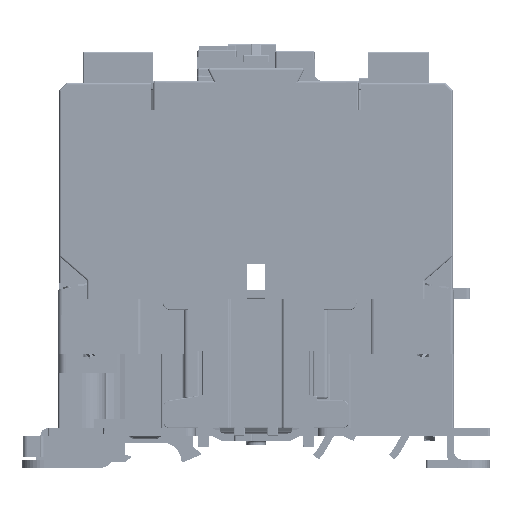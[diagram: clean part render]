
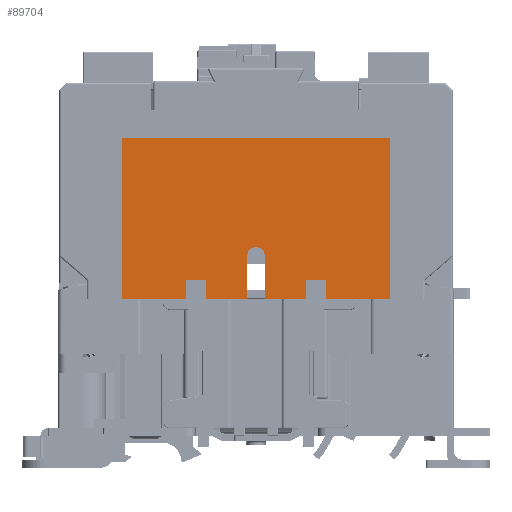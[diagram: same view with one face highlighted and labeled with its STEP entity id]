
A CAD part, front view. The second image highlights one B-rep face of the part: STEP entity #89704.
In plain terms, the highlighted planar face has unit normal (0, -1, 0) as drawn and (-1, 0, 0) by its records, which use the part's own axes.
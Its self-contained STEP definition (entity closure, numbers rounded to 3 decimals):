
#70739=DIRECTION('',(0.,1.,0.));
#70740=VECTOR('',#70739,17.25);
#70741=CARTESIAN_POINT('',(-40.75,19.,0.));
#70742=LINE('',#70741,#70740);
#70755=DIRECTION('',(0.,1.,0.));
#70756=VECTOR('',#70755,11.1);
#70757=CARTESIAN_POINT('',(-40.75,2.4,0.));
#70758=LINE('',#70757,#70756);
#70951=DIRECTION('',(0.,1.,0.));
#70952=VECTOR('',#70951,11.1);
#70953=CARTESIAN_POINT('',(-40.75,-13.5,0.));
#70954=LINE('',#70953,#70952);
#70967=DIRECTION('',(0.,1.,0.));
#70968=VECTOR('',#70967,17.25);
#70969=CARTESIAN_POINT('',(-40.75,-36.25,0.));
#70970=LINE('',#70969,#70968);
#74734=DIRECTION('',(0.,0.,1.));
#74735=VECTOR('',#74734,11.6);
#74736=CARTESIAN_POINT('',(-40.75,2.4,0.));
#74737=LINE('',#74736,#74735);
#74742=DIRECTION('',(0.,0.,1.));
#74743=VECTOR('',#74742,5.);
#74744=CARTESIAN_POINT('',(-40.75,-13.5,0.));
#74745=LINE('',#74744,#74743);
#74746=DIRECTION('',(0.,0.,1.));
#74747=VECTOR('',#74746,5.);
#74748=CARTESIAN_POINT('',(-40.75,13.5,0.));
#74749=LINE('',#74748,#74747);
#74750=DIRECTION('',(0.,-1.,0.));
#74751=VECTOR('',#74750,5.5);
#74752=CARTESIAN_POINT('',(-40.75,19.,5.));
#74753=LINE('',#74752,#74751);
#74754=DIRECTION('',(0.,0.,1.));
#74755=VECTOR('',#74754,5.);
#74756=CARTESIAN_POINT('',(-40.75,19.,0.));
#74757=LINE('',#74756,#74755);
#74758=DIRECTION('',(0.,0.,1.));
#74759=VECTOR('',#74758,43.5);
#74760=CARTESIAN_POINT('',(-40.75,36.25,0.));
#74761=LINE('',#74760,#74759);
#74762=DIRECTION('',(0.,-1.,0.));
#74763=VECTOR('',#74762,72.5);
#74764=CARTESIAN_POINT('',(-40.75,36.25,43.5));
#74765=LINE('',#74764,#74763);
#74766=DIRECTION('',(0.,0.,-1.));
#74767=VECTOR('',#74766,43.5);
#74768=CARTESIAN_POINT('',(-40.75,-36.25,43.5));
#74769=LINE('',#74768,#74767);
#74770=DIRECTION('',(0.,0.,1.));
#74771=VECTOR('',#74770,5.);
#74772=CARTESIAN_POINT('',(-40.75,-19.,0.));
#74773=LINE('',#74772,#74771);
#74774=DIRECTION('',(0.,-1.,0.));
#74775=VECTOR('',#74774,5.5);
#74776=CARTESIAN_POINT('',(-40.75,-13.5,5.));
#74777=LINE('',#74776,#74775);
#74826=DIRECTION('',(0.,0.,-1.));
#74827=VECTOR('',#74826,11.6);
#74828=CARTESIAN_POINT('',(-40.75,-2.4,11.6));
#74829=LINE('',#74828,#74827);
#74847=CARTESIAN_POINT('',(-40.75,0.,11.6));
#74848=DIRECTION('',(1.,0.,0.));
#74849=DIRECTION('',(0.,1.,0.));
#74850=AXIS2_PLACEMENT_3D('',#74847,#74848,#74849);
#78006=CARTESIAN_POINT('',(-40.75,36.25,43.5));
#78007=CARTESIAN_POINT('',(-40.75,-36.25,43.5));
#78008=VERTEX_POINT('',#78006);
#78009=VERTEX_POINT('',#78007);
#78010=CARTESIAN_POINT('',(-40.75,36.25,0.));
#78011=VERTEX_POINT('',#78010);
#78012=CARTESIAN_POINT('',(-40.75,-36.25,0.));
#78013=VERTEX_POINT('',#78012);
#78034=CARTESIAN_POINT('',(-40.75,-13.5,5.));
#78035=VERTEX_POINT('',#78034);
#78036=CARTESIAN_POINT('',(-40.75,-19.,5.));
#78037=VERTEX_POINT('',#78036);
#78038=CARTESIAN_POINT('',(-40.75,19.,5.));
#78039=VERTEX_POINT('',#78038);
#78040=CARTESIAN_POINT('',(-40.75,13.5,5.));
#78041=VERTEX_POINT('',#78040);
#78046=CARTESIAN_POINT('',(-40.75,2.4,0.));
#78047=CARTESIAN_POINT('',(-40.75,2.4,11.6));
#78048=VERTEX_POINT('',#78046);
#78049=VERTEX_POINT('',#78047);
#78050=CARTESIAN_POINT('',(-40.75,-2.4,11.6));
#78051=VERTEX_POINT('',#78050);
#78052=CARTESIAN_POINT('',(-40.75,-2.4,0.));
#78053=VERTEX_POINT('',#78052);
#78054=CARTESIAN_POINT('',(-40.75,-13.5,0.));
#78055=VERTEX_POINT('',#78054);
#78056=CARTESIAN_POINT('',(-40.75,-19.,0.));
#78057=VERTEX_POINT('',#78056);
#78058=CARTESIAN_POINT('',(-40.75,19.,0.));
#78059=VERTEX_POINT('',#78058);
#78060=CARTESIAN_POINT('',(-40.75,13.5,0.));
#78061=VERTEX_POINT('',#78060);
#89670=CARTESIAN_POINT('',(-40.75,0.,0.));
#89671=DIRECTION('',(1.,0.,0.));
#89672=DIRECTION('',(0.,1.,0.));
#89673=AXIS2_PLACEMENT_3D('',#89670,#89671,#89672);
#89674=PLANE('',#89673);
#89676=ORIENTED_EDGE('',*,*,#89675,.F.);
#89677=ORIENTED_EDGE('',*,*,#84395,.T.);
#89679=ORIENTED_EDGE('',*,*,#89678,.F.);
#89681=ORIENTED_EDGE('',*,*,#89680,.F.);
#89682=ORIENTED_EDGE('',*,*,#89648,.F.);
#89683=ORIENTED_EDGE('',*,*,#84240,.T.);
#89685=ORIENTED_EDGE('',*,*,#89684,.T.);
#89687=ORIENTED_EDGE('',*,*,#89686,.F.);
#89689=ORIENTED_EDGE('',*,*,#89688,.F.);
#89690=ORIENTED_EDGE('',*,*,#84232,.T.);
#89692=ORIENTED_EDGE('',*,*,#89691,.T.);
#89694=ORIENTED_EDGE('',*,*,#89693,.T.);
#89696=ORIENTED_EDGE('',*,*,#89695,.T.);
#89697=ORIENTED_EDGE('',*,*,#84403,.T.);
#89699=ORIENTED_EDGE('',*,*,#89698,.T.);
#89701=ORIENTED_EDGE('',*,*,#89700,.F.);
#89702=EDGE_LOOP('',(#89676,#89677,#89679,#89681,#89682,#89683,#89685,#89687,
#89689,#89690,#89692,#89694,#89696,#89697,#89699,#89701));
#89703=FACE_OUTER_BOUND('',#89702,.F.);
#89704=ADVANCED_FACE('',(#89703),#89674,.F.);
#74851=CIRCLE('',#74850,2.4);
#84232=EDGE_CURVE('',#78059,#78011,#70742,.T.);
#84240=EDGE_CURVE('',#78048,#78061,#70758,.T.);
#84395=EDGE_CURVE('',#78055,#78053,#70954,.T.);
#84403=EDGE_CURVE('',#78013,#78057,#70970,.T.);
#89648=EDGE_CURVE('',#78048,#78049,#74737,.T.);
#89675=EDGE_CURVE('',#78055,#78035,#74745,.T.);
#89678=EDGE_CURVE('',#78051,#78053,#74829,.T.);
#89680=EDGE_CURVE('',#78049,#78051,#74851,.T.);
#89684=EDGE_CURVE('',#78061,#78041,#74749,.T.);
#89686=EDGE_CURVE('',#78039,#78041,#74753,.T.);
#89688=EDGE_CURVE('',#78059,#78039,#74757,.T.);
#89691=EDGE_CURVE('',#78011,#78008,#74761,.T.);
#89693=EDGE_CURVE('',#78008,#78009,#74765,.T.);
#89695=EDGE_CURVE('',#78009,#78013,#74769,.T.);
#89698=EDGE_CURVE('',#78057,#78037,#74773,.T.);
#89700=EDGE_CURVE('',#78035,#78037,#74777,.T.);
